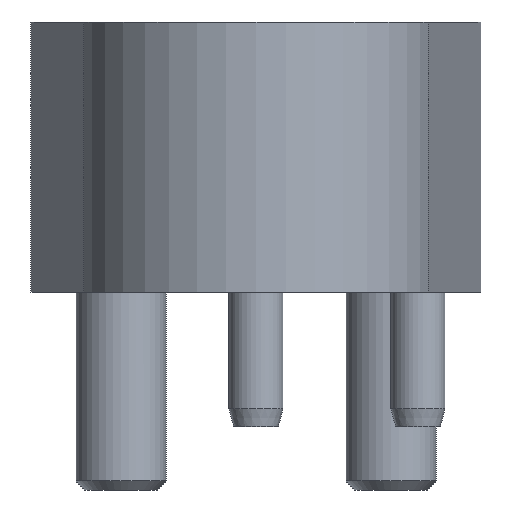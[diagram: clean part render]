
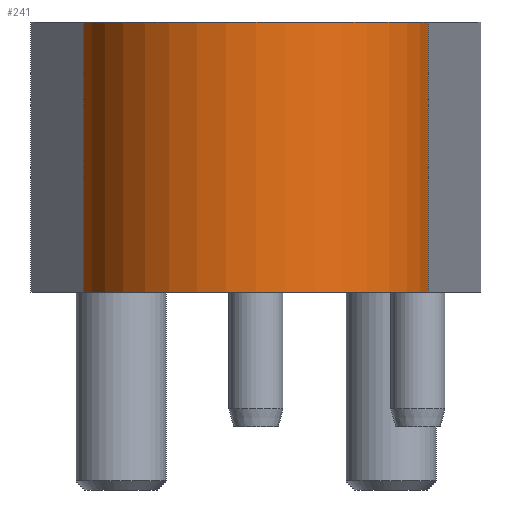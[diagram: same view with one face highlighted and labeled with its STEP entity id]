
A CAD part, left-side view. The second image highlights one B-rep face of the part: STEP entity #241.
In plain terms, the highlighted cylindrical face has radius 19.5 mm (diameter 39 mm), a partial arc.
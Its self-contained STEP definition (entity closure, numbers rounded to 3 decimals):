
#241=ADVANCED_FACE('',(#425),#376,.T.);
#376=CYLINDRICAL_SURFACE('',#2220,19.5);
#425=FACE_OUTER_BOUND('',#543,.T.);
#543=EDGE_LOOP('',(#827,#828,#829,#830));
#703=CIRCLE('',#2218,19.5);
#704=CIRCLE('',#2219,19.5);
#827=ORIENTED_EDGE('',*,*,#1597,.T.);
#828=ORIENTED_EDGE('',*,*,#1598,.F.);
#829=ORIENTED_EDGE('',*,*,#1599,.F.);
#830=ORIENTED_EDGE('',*,*,#1600,.T.);
#1411=VERTEX_POINT('',#3163);
#1412=VERTEX_POINT('',#3164);
#1413=VERTEX_POINT('',#3166);
#1414=VERTEX_POINT('',#3168);
#1597=EDGE_CURVE('',#1411,#1412,#1889,.T.);
#1598=EDGE_CURVE('',#1413,#1412,#703,.T.);
#1599=EDGE_CURVE('',#1414,#1413,#1890,.T.);
#1600=EDGE_CURVE('',#1414,#1411,#704,.T.);
#1889=LINE('',#3162,#2053);
#1890=LINE('',#3167,#2054);
#2053=VECTOR('',#2479,1.);
#2054=VECTOR('',#2482,1.);
#2218=AXIS2_PLACEMENT_3D('',#3165,#2480,#2481);
#2219=AXIS2_PLACEMENT_3D('',#3169,#2483,#2484);
#2220=AXIS2_PLACEMENT_3D('',#3170,#2485,#2486);
#2479=DIRECTION('',(0.,0.,1.));
#2480=DIRECTION('',(0.,0.,1.));
#2481=DIRECTION('',(0.,1.,0.));
#2482=DIRECTION('',(0.,0.,1.));
#2483=DIRECTION('',(0.,0.,1.));
#2484=DIRECTION('',(0.,1.,0.));
#2485=DIRECTION('',(0.,0.,1.));
#2486=DIRECTION('',(-1.,0.,0.));
#3162=CARTESIAN_POINT('',(-3.771,-19.132,0.));
#3163=CARTESIAN_POINT('',(-3.771,-19.132,0.));
#3164=CARTESIAN_POINT('',(-3.771,-19.132,30.));
#3165=CARTESIAN_POINT('',(0.,0.,30.));
#3166=CARTESIAN_POINT('',(-3.771,19.132,30.));
#3167=CARTESIAN_POINT('',(-3.771,19.132,0.));
#3168=CARTESIAN_POINT('',(-3.771,19.132,0.));
#3169=CARTESIAN_POINT('',(0.,0.,0.));
#3170=CARTESIAN_POINT('',(0.,0.,0.));
